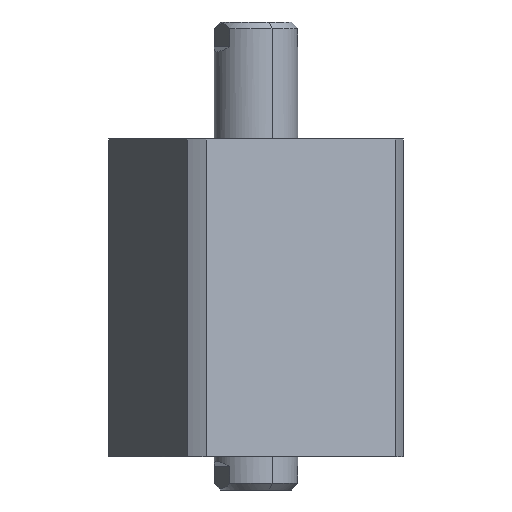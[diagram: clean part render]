
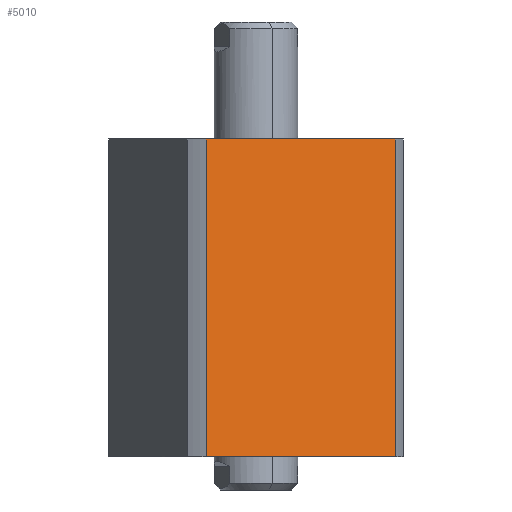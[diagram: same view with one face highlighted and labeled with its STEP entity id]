
A CAD part, front view. The second image highlights one B-rep face of the part: STEP entity #5010.
In plain terms, the highlighted planar face has unit normal (0.383, -0.924, 0) as drawn and (-1, 0, 0) by its records, which use the part's own axes.
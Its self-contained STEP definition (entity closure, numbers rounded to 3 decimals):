
#455 = ORIENTED_EDGE ( 'NONE', *, *, #3953, .F. ) ;
#606 = CARTESIAN_POINT ( 'NONE',  ( -35., 35., 0. ) ) ;
#750 = CARTESIAN_POINT ( 'NONE',  ( -35., -30.615, 0. ) ) ;
#1154 = LINE ( 'NONE', #7919, #5455 ) ;
#1272 = VECTOR ( 'NONE', #7481, 1000. ) ;
#1320 = EDGE_CURVE ( 'NONE', #2078, #3750, #1154, .T. ) ;
#1503 = ORIENTED_EDGE ( 'NONE', *, *, #1320, .F. ) ;
#1504 = VECTOR ( 'NONE', #9020, 1000. ) ;
#1729 = EDGE_LOOP ( 'NONE', ( #1503, #9051, #5399, #455 ) ) ;
#2037 = CARTESIAN_POINT ( 'NONE',  ( -35., 35., 95. ) ) ;
#2078 = VERTEX_POINT ( 'NONE', #8130 ) ;
#2559 = CARTESIAN_POINT ( 'NONE',  ( -35., -30.615, -205. ) ) ;
#2610 = LINE ( 'NONE', #2820, #4514 ) ;
#2820 = CARTESIAN_POINT ( 'NONE',  ( -35., 35., 95. ) ) ;
#3350 = EDGE_CURVE ( 'NONE', #10337, #4579, #3630, .T. ) ;
#3397 = FACE_OUTER_BOUND ( 'NONE', #1729, .T. ) ;
#3630 = LINE ( 'NONE', #2559, #1504 ) ;
#3662 = DIRECTION ( 'NONE',  ( 1., 0., 0. ) ) ;
#3750 = VERTEX_POINT ( 'NONE', #6601 ) ;
#3782 = DIRECTION ( 'NONE',  ( 0., 0., 1. ) ) ;
#3953 = EDGE_CURVE ( 'NONE', #3750, #10337, #2610, .T. ) ;
#4514 = VECTOR ( 'NONE', #6660, 1000. ) ;
#4579 = VERTEX_POINT ( 'NONE', #750 ) ;
#5010 = ADVANCED_FACE ( 'NONE', ( #3397 ), #8517, .F. ) ;
#5061 = EDGE_CURVE ( 'NONE', #2078, #4579, #7208, .T. ) ;
#5399 = ORIENTED_EDGE ( 'NONE', *, *, #3350, .F. ) ;
#5455 = VECTOR ( 'NONE', #3782, 1000. ) ;
#6601 = CARTESIAN_POINT ( 'NONE',  ( -35., 30.615, 95. ) ) ;
#6660 = DIRECTION ( 'NONE',  ( 0., -1., 0. ) ) ;
#6850 = AXIS2_PLACEMENT_3D ( 'NONE', #2037, #3662, #9311 ) ;
#7208 = LINE ( 'NONE', #606, #1272 ) ;
#7481 = DIRECTION ( 'NONE',  ( 0., -1., 0. ) ) ;
#7919 = CARTESIAN_POINT ( 'NONE',  ( -35., 30.615, -205. ) ) ;
#8130 = CARTESIAN_POINT ( 'NONE',  ( -35., 30.615, 0. ) ) ;
#8517 = PLANE ( 'NONE',  #6850 ) ;
#9020 = DIRECTION ( 'NONE',  ( 0., 0., -1. ) ) ;
#9051 = ORIENTED_EDGE ( 'NONE', *, *, #5061, .T. ) ;
#9060 = CARTESIAN_POINT ( 'NONE',  ( -35., -30.615, 95. ) ) ;
#9311 = DIRECTION ( 'NONE',  ( 0., 1., 0. ) ) ;
#10337 = VERTEX_POINT ( 'NONE', #9060 ) ;
